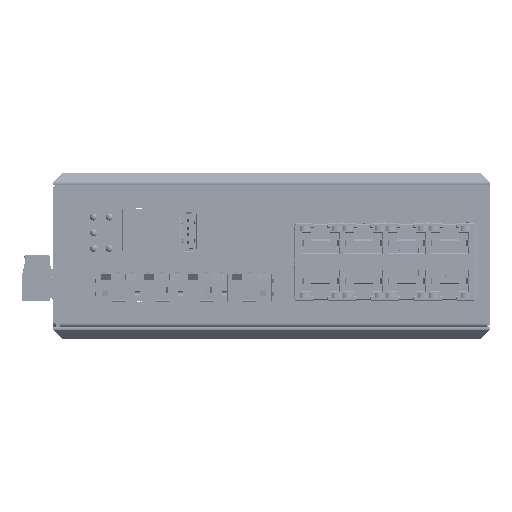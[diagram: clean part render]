
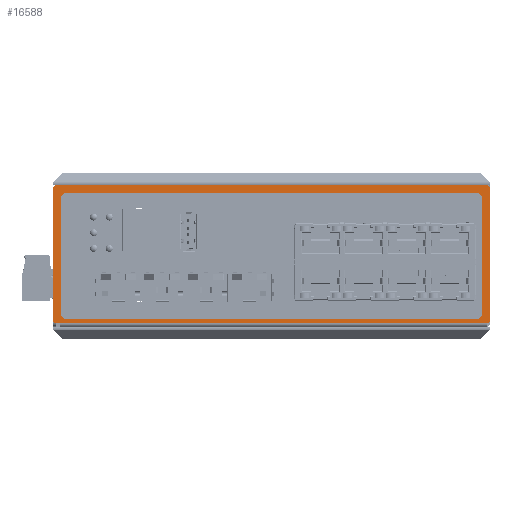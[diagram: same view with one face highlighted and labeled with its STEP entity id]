
A CAD part, front view. The second image highlights one B-rep face of the part: STEP entity #16588.
In plain terms, the highlighted planar face has unit normal (0, -1, 0).
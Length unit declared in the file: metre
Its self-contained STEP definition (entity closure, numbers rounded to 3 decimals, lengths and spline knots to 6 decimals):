
#16588 = ADVANCED_FACE( '', ( #38200, #38201 ), #38202, .T. );
#38200 = FACE_OUTER_BOUND( '', #68769, .T. );
#38201 = FACE_BOUND( '', #68770, .T. );
#38202 = PLANE( '', #68771 );
#68769 = EDGE_LOOP( '', ( #122612, #122613, #122614, #122615, #122616, #122617, #122618, #122619, #122620, #122621 ) );
#68770 = EDGE_LOOP( '', ( #122622, #122623, #122624, #122625, #122626, #122627, #122628, #122629 ) );
#68771 = AXIS2_PLACEMENT_3D( '', #122630, #122631, #122632 );
#122612 = ORIENTED_EDGE( '', *, *, #185852, .F. );
#122613 = ORIENTED_EDGE( '', *, *, #175017, .F. );
#122614 = ORIENTED_EDGE( '', *, *, #185853, .F. );
#122615 = ORIENTED_EDGE( '', *, *, #181758, .F. );
#122616 = ORIENTED_EDGE( '', *, *, #185854, .F. );
#122617 = ORIENTED_EDGE( '', *, *, #185019, .F. );
#122618 = ORIENTED_EDGE( '', *, *, #185855, .F. );
#122619 = ORIENTED_EDGE( '', *, *, #184073, .T. );
#122620 = ORIENTED_EDGE( '', *, *, #168286, .T. );
#122621 = ORIENTED_EDGE( '', *, *, #185856, .T. );
#122622 = ORIENTED_EDGE( '', *, *, #182026, .F. );
#122623 = ORIENTED_EDGE( '', *, *, #185857, .F. );
#122624 = ORIENTED_EDGE( '', *, *, #181919, .F. );
#122625 = ORIENTED_EDGE( '', *, *, #164972, .F. );
#122626 = ORIENTED_EDGE( '', *, *, #178950, .F. );
#122627 = ORIENTED_EDGE( '', *, *, #185858, .F. );
#122628 = ORIENTED_EDGE( '', *, *, #185859, .F. );
#122629 = ORIENTED_EDGE( '', *, *, #185333, .F. );
#122630 = CARTESIAN_POINT( '', ( 0., -0.049, 0. ) );
#122631 = DIRECTION( '', ( 0., -1., 0. ) );
#122632 = DIRECTION( '', ( 1., 0., 0. ) );
#164972 = EDGE_CURVE( '', #200367, #200362, #200369, .T. );
#168286 = EDGE_CURVE( '', #206326, #206328, #206330, .T. );
#175017 = EDGE_CURVE( '', #217968, #217963, #217970, .T. );
#178950 = EDGE_CURVE( '', #224463, #200367, #224466, .T. );
#181758 = EDGE_CURVE( '', #228934, #228929, #228936, .T. );
#181919 = EDGE_CURVE( '', #200362, #229187, #229188, .T. );
#182026 = EDGE_CURVE( '', #229347, #229349, #229350, .T. );
#184073 = EDGE_CURVE( '', #232512, #206326, #232516, .T. );
#185019 = EDGE_CURVE( '', #233963, #233965, #233966, .T. );
#185333 = EDGE_CURVE( '', #229349, #234427, #234429, .T. );
#185852 = EDGE_CURVE( '', #217963, #235185, #235186, .T. );
#185853 = EDGE_CURVE( '', #228929, #217968, #235187, .T. );
#185854 = EDGE_CURVE( '', #233965, #228934, #235188, .T. );
#185855 = EDGE_CURVE( '', #232512, #233963, #235189, .T. );
#185856 = EDGE_CURVE( '', #206328, #235185, #235190, .T. );
#185857 = EDGE_CURVE( '', #229187, #229347, #235191, .T. );
#185858 = EDGE_CURVE( '', #235192, #224463, #235193, .T. );
#185859 = EDGE_CURVE( '', #234427, #235192, #235194, .T. );
#200362 = VERTEX_POINT( '', #256175 );
#200367 = VERTEX_POINT( '', #256182 );
#200369 = LINE( '', #256185, #256186 );
#206326 = VERTEX_POINT( '', #265713 );
#206328 = VERTEX_POINT( '', #265715 );
#206330 = LINE( '', #265717, #265718 );
#217963 = VERTEX_POINT( '', #283957 );
#217968 = VERTEX_POINT( '', #283964 );
#217970 = LINE( '', #283967, #283968 );
#224463 = VERTEX_POINT( '', #294164 );
#224466 = CIRCLE( '', #294168, 0.002 );
#228929 = VERTEX_POINT( '', #300952 );
#228934 = VERTEX_POINT( '', #300959 );
#228936 = LINE( '', #300962, #300963 );
#229187 = VERTEX_POINT( '', #301397 );
#229188 = CIRCLE( '', #301398, 0.002 );
#229347 = VERTEX_POINT( '', #301624 );
#229349 = VERTEX_POINT( '', #301627 );
#229350 = CIRCLE( '', #301628, 0.002 );
#232512 = VERTEX_POINT( '', #306429 );
#232516 = LINE( '', #306435, #306436 );
#233963 = VERTEX_POINT( '', #308668 );
#233965 = VERTEX_POINT( '', #308671 );
#233966 = LINE( '', #308672, #308673 );
#234427 = VERTEX_POINT( '', #309489 );
#234429 = LINE( '', #309492, #309493 );
#235185 = VERTEX_POINT( '', #310672 );
#235186 = CIRCLE( '', #310673, 0.001 );
#235187 = CIRCLE( '', #310674, 0.001 );
#235188 = CIRCLE( '', #310675, 0.001 );
#235189 = CIRCLE( '', #310676, 0.001 );
#235190 = LINE( '', #310677, #310678 );
#235191 = LINE( '', #310679, #310680 );
#235192 = VERTEX_POINT( '', #310681 );
#235193 = LINE( '', #310682, #310683 );
#235194 = CIRCLE( '', #310684, 0.002 );
#256175 = CARTESIAN_POINT( '', ( 0.068, -0.049, 0.0405 ) );
#256182 = CARTESIAN_POINT( '', ( 0.068, -0.049, 0.0035 ) );
#256185 = CARTESIAN_POINT( '', ( 0.068, -0.049, 0.0035 ) );
#256186 = VECTOR( '', #341098, 1. );
#265713 = CARTESIAN_POINT( '', ( -0.0694, -0.049, 0.0001 ) );
#265715 = CARTESIAN_POINT( '', ( 0.0694, -0.049, 0.0001 ) );
#265717 = CARTESIAN_POINT( '', ( -0.0694, -0.049, 0.0001 ) );
#265718 = VECTOR( '', #344532, 1. );
#283957 = CARTESIAN_POINT( '', ( 0.0705, -0.049, 0.0011 ) );
#283964 = CARTESIAN_POINT( '', ( 0.0705, -0.049, 0.044 ) );
#283967 = CARTESIAN_POINT( '', ( 0.0705, -0.049, 0.044 ) );
#283968 = VECTOR( '', #351170, 1. );
#294164 = CARTESIAN_POINT( '', ( 0.066, -0.049, 0.0015 ) );
#294168 = AXIS2_PLACEMENT_3D( '', #354952, #354953, #354954 );
#300952 = CARTESIAN_POINT( '', ( 0.0695, -0.049, 0.045 ) );
#300959 = CARTESIAN_POINT( '', ( -0.0705, -0.049, 0.045 ) );
#300962 = CARTESIAN_POINT( '', ( -0.0705, -0.049, 0.045 ) );
#300963 = VECTOR( '', #357637, 1. );
#301397 = CARTESIAN_POINT( '', ( 0.066, -0.049, 0.0425 ) );
#301398 = AXIS2_PLACEMENT_3D( '', #357796, #357797, #357798 );
#301624 = CARTESIAN_POINT( '', ( -0.067, -0.049, 0.0425 ) );
#301627 = CARTESIAN_POINT( '', ( -0.069, -0.049, 0.0405 ) );
#301628 = AXIS2_PLACEMENT_3D( '', #357892, #357893, #357894 );
#306429 = CARTESIAN_POINT( '', ( -0.0705, -0.049, 0.0001 ) );
#306435 = CARTESIAN_POINT( '', ( -0.0705, -0.049, 0.0001 ) );
#306436 = VECTOR( '', #360061, 1. );
#308668 = CARTESIAN_POINT( '', ( -0.0715, -0.049, 0.0011 ) );
#308671 = CARTESIAN_POINT( '', ( -0.0715, -0.049, 0.044 ) );
#308672 = CARTESIAN_POINT( '', ( -0.0715, -0.049, 0.0011 ) );
#308673 = VECTOR( '', #361085, 1. );
#309489 = CARTESIAN_POINT( '', ( -0.069, -0.049, 0.0035 ) );
#309492 = CARTESIAN_POINT( '', ( -0.069, -0.049, 0.0405 ) );
#309493 = VECTOR( '', #361362, 1. );
#310672 = CARTESIAN_POINT( '', ( 0.0695, -0.049, 0.0001 ) );
#310673 = AXIS2_PLACEMENT_3D( '', #361841, #361842, #361843 );
#310674 = AXIS2_PLACEMENT_3D( '', #361844, #361845, #361846 );
#310675 = AXIS2_PLACEMENT_3D( '', #361847, #361848, #361849 );
#310676 = AXIS2_PLACEMENT_3D( '', #361850, #361851, #361852 );
#310677 = CARTESIAN_POINT( '', ( 0.0694, -0.049, 0.0001 ) );
#310678 = VECTOR( '', #361853, 1. );
#310679 = CARTESIAN_POINT( '', ( 0.066, -0.049, 0.0425 ) );
#310680 = VECTOR( '', #361854, 1. );
#310681 = CARTESIAN_POINT( '', ( -0.067, -0.049, 0.0015 ) );
#310682 = CARTESIAN_POINT( '', ( -0.067, -0.049, 0.0015 ) );
#310683 = VECTOR( '', #361855, 1. );
#310684 = AXIS2_PLACEMENT_3D( '', #361856, #361857, #361858 );
#341098 = DIRECTION( '', ( 0., 0., 1. ) );
#344532 = DIRECTION( '', ( 1., 0., 0. ) );
#351170 = DIRECTION( '', ( 0., 0., -1. ) );
#354952 = CARTESIAN_POINT( '', ( 0.066, -0.049, 0.0035 ) );
#354953 = DIRECTION( '', ( 0., -1., 0. ) );
#354954 = DIRECTION( '', ( 0., 0., -1. ) );
#357637 = DIRECTION( '', ( 1., 0., 0. ) );
#357796 = CARTESIAN_POINT( '', ( 0.066, -0.049, 0.0405 ) );
#357797 = DIRECTION( '', ( 0., -1., 0. ) );
#357798 = DIRECTION( '', ( 1., 0., 0. ) );
#357892 = CARTESIAN_POINT( '', ( -0.067, -0.049, 0.0405 ) );
#357893 = DIRECTION( '', ( 0., -1., 0. ) );
#357894 = DIRECTION( '', ( 0., 0., 1. ) );
#360061 = DIRECTION( '', ( 1., 0., 0. ) );
#361085 = DIRECTION( '', ( 0., 0., 1. ) );
#361362 = DIRECTION( '', ( 0., 0., -1. ) );
#361841 = CARTESIAN_POINT( '', ( 0.0695, -0.049, 0.0011 ) );
#361842 = DIRECTION( '', ( 0., 1., 0. ) );
#361843 = DIRECTION( '', ( 1., 0., 0. ) );
#361844 = CARTESIAN_POINT( '', ( 0.0695, -0.049, 0.044 ) );
#361845 = DIRECTION( '', ( 0., 1., 0. ) );
#361846 = DIRECTION( '', ( 0., 0., 1. ) );
#361847 = CARTESIAN_POINT( '', ( -0.0705, -0.049, 0.044 ) );
#361848 = DIRECTION( '', ( 0., 1., 0. ) );
#361849 = DIRECTION( '', ( -1., 0., 0. ) );
#361850 = CARTESIAN_POINT( '', ( -0.0705, -0.049, 0.0011 ) );
#361851 = DIRECTION( '', ( 0., 1., 0. ) );
#361852 = DIRECTION( '', ( 0., 0., -1. ) );
#361853 = DIRECTION( '', ( 1., 0., 0. ) );
#361854 = DIRECTION( '', ( -1., 0., 0. ) );
#361855 = DIRECTION( '', ( 1., 0., 0. ) );
#361856 = CARTESIAN_POINT( '', ( -0.067, -0.049, 0.0035 ) );
#361857 = DIRECTION( '', ( 0., -1., 0. ) );
#361858 = DIRECTION( '', ( -1., 0., 0. ) );
